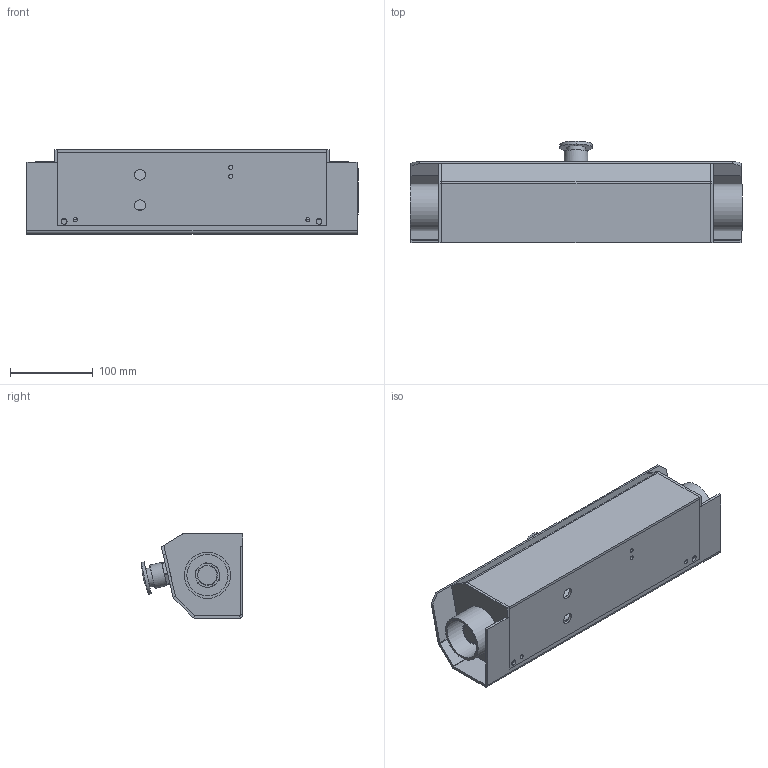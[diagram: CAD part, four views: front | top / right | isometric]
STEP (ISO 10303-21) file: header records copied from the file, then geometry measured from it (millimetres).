
FILE_DESCRIPTION (( 'STEP AP214' ), '1' );
FILE_NAME ('PL5.STEP', '2024-03-25T19:35:16', ( '' ), ( '' ), 'SwSTEP 2.0', 'SolidWorks 2020', '' );
FILE_SCHEMA (( 'AUTOMOTIVE_DESIGN' ));
Length unit declared in the file: millimetre
Products named in the file (10): PL5_1; PL5_Button; PL5_Mushroom; PL5_4; PL5_2; PL5; PL5_7; PL5_3; PL5_6; PL5_5
Assembly tree (12 placements, depth 2):
  PL5
    PL5_1
    PL5_2  x2
    PL5_3
    PL5_4
    PL5_5
    PL5_6
    PL5_7  x2
    PL5_Button  x2
    PL5_Mushroom
Bounding box: 402.4 x 123.46 x 102.2 mm (x, y, z)
Volume: 609823.2 mm3; surface area: 372397.6 mm2
Topology: 12 solids, 12 shells, 223 faces, 514 edges, 317 vertices
Faces by surface type: plane 159, cylinder 60, bspline 4
Full cylindrical faces by diameter (mm): 5 x4, 7 x2, 13.2 x2, 23 x1, 24.7 x2, 28.9 x3, 39.5 x1, 50 x2, 56 x2
Entity records: 5926 total; most frequent: CARTESIAN_POINT 1047, DIRECTION 864, ORIENTED_EDGE 770, EDGE_CURVE 385, AXIS2_PLACEMENT_3D 300, LINE 264, VECTOR 264, VERTEX_POINT 245
